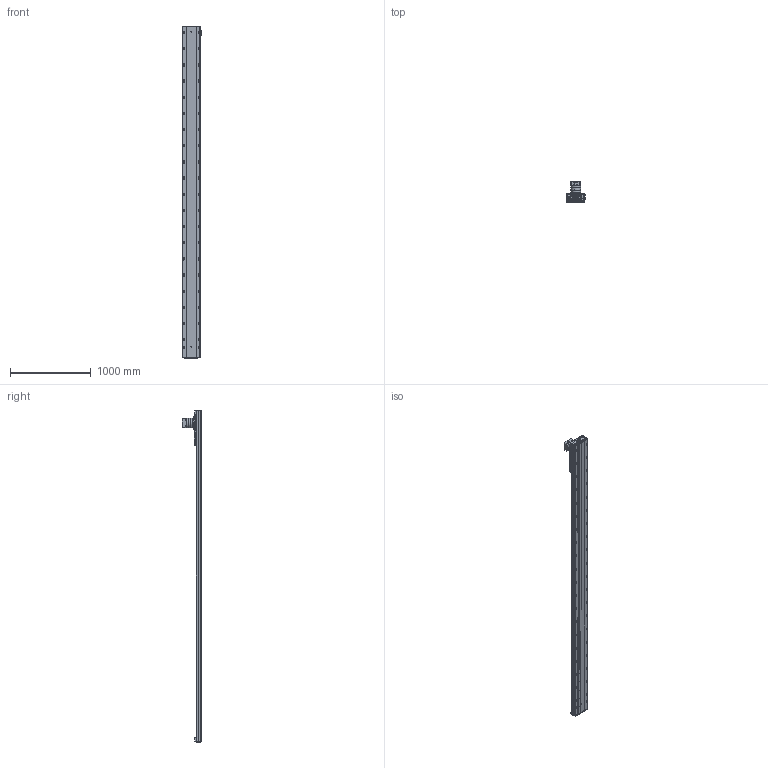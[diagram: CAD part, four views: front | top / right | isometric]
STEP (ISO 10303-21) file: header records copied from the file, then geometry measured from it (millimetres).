
FILE_DESCRIPTION (( 'STEP AP203' ), '1' );
FILE_NAME ('RY220-C-300-UK.SLDASM_3600.step', '2022-08-01T06:01:13', ( '' ), ( '' ), 'SwSTEP 2.0', 'SolidWorks 2016', '' );
FILE_SCHEMA (( 'CONFIG_CONTROL_DESIGN' ));
Length unit declared in the file: millimetre
Products named in the file (10): RY220喘沭賑輸; 覜茼ん674; RY220-齿条模组电机安装板; RY220菁釱MK-300_3600; PF115L1-S2-22-58-110-145-M8; RY220喘沭綴裔啣; RY220喘沭俋离覜茼え; RY220-C-300-UK.SLDASM_3600; 滅袉蝶輸ㄗG412隅秶ㄘ; RY140直线电机感应器674光电安装座
Assembly tree (12 placements, depth 2):
  RY220-C-300-UK.SLDASM_3600
    RY220菁釱MK-300_3600
    RY220喘沭賑輸
    RY220-齿条模组电机安装板
    PF115L1-S2-22-58-110-145-M8
    RY220喘沭綴裔啣  x2
    滅袉蝶輸ㄗG412隅秶ㄘ  x2
    RY140直线电机感应器674光电安装座
    覜茼ん674  x2
    RY220喘沭俋离覜茼え
Bounding box: 247 x 244.5 x 4109 mm (x, y, z)
Volume: 26385354.8 mm3; surface area: 5491328 mm2
Topology: 18 solids, 26 shells, 2580 faces, 6973 edges, 4315 vertices
Faces by surface type: cylinder 1293, plane 751, cone 374, bspline 162
Entity records: 82357 total; most frequent: CARTESIAN_POINT 22199, DIRECTION 12527, ORIENTED_EDGE 12098, EDGE_CURVE 6049, AXIS2_PLACEMENT_3D 4831, VERTEX_POINT 3941, EDGE_LOOP 3074, LINE 2865
